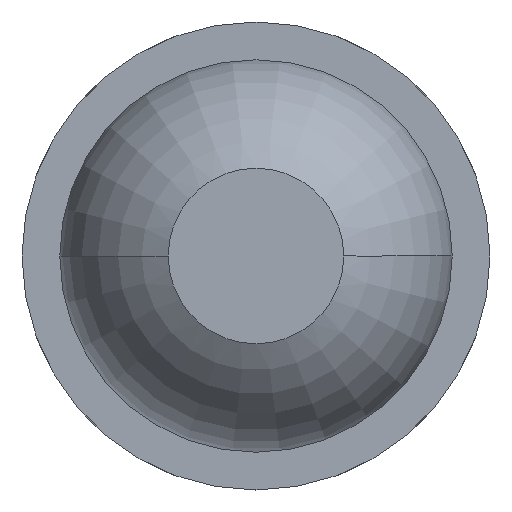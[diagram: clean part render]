
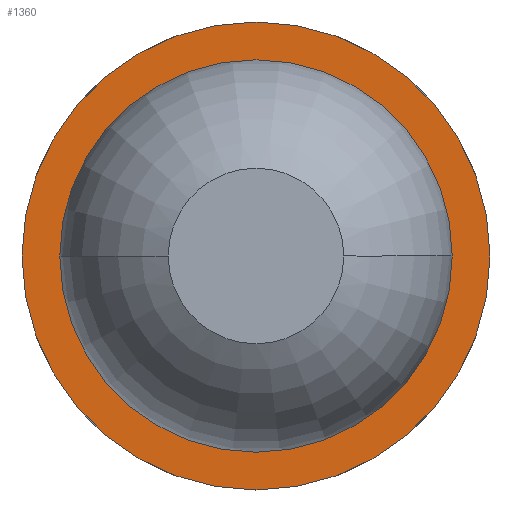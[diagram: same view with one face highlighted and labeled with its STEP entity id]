
A CAD part, left-side view. The second image highlights one B-rep face of the part: STEP entity #1360.
In plain terms, the highlighted planar face has unit normal (-1, 0, 0).
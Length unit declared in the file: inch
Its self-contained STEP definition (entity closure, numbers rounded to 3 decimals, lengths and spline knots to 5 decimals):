
#17 = CARTESIAN_POINT ( 'NONE',  ( 1.23, 0., 0. ) ) ;
#58 = ORIENTED_EDGE ( 'NONE', *, *, #1231, .F. ) ;
#79 = VERTEX_POINT ( 'NONE', #1186 ) ;
#85 = CIRCLE ( 'NONE', #359, 0.0123 ) ;
#101 = CARTESIAN_POINT ( 'NONE',  ( 1.23, 0., 0. ) ) ;
#115 = EDGE_LOOP ( 'NONE', ( #151, #922 ) ) ;
#151 = ORIENTED_EDGE ( 'NONE', *, *, #782, .T. ) ;
#180 = DIRECTION ( 'NONE',  ( 1., 0., 0. ) ) ;
#197 = DIRECTION ( 'NONE',  ( 0., 0., -1. ) ) ;
#301 = DIRECTION ( 'NONE',  ( 1., 0., 0. ) ) ;
#344 = FACE_BOUND ( 'NONE', #115, .T. ) ;
#348 = DIRECTION ( 'NONE',  ( 1., 0., 0. ) ) ;
#359 = AXIS2_PLACEMENT_3D ( 'NONE', #752, #1216, #197 ) ;
#449 = CARTESIAN_POINT ( 'NONE',  ( 1.23, 0., 0.0123 ) ) ;
#461 = VERTEX_POINT ( 'NONE', #449 ) ;
#503 = CIRCLE ( 'NONE', #1224, 0.024 ) ;
#539 = VERTEX_POINT ( 'NONE', #926 ) ;
#622 = DIRECTION ( 'NONE',  ( 0., 0., -1. ) ) ;
#661 = FACE_OUTER_BOUND ( 'NONE', #1183, .T. ) ;
#690 = AXIS2_PLACEMENT_3D ( 'NONE', #17, #348, #800 ) ;
#722 = DIRECTION ( 'NONE',  ( 0., 0., -1. ) ) ;
#725 = VERTEX_POINT ( 'NONE', #1451 ) ;
#752 = CARTESIAN_POINT ( 'NONE',  ( 1.23, 0., 0. ) ) ;
#782 = EDGE_CURVE ( 'NONE', #461, #539, #85, .T. ) ;
#789 = CIRCLE ( 'NONE', #690, 0.0123 ) ;
#800 = DIRECTION ( 'NONE',  ( 0., 0., -1. ) ) ;
#869 = CARTESIAN_POINT ( 'NONE',  ( 1.23, 0., 0. ) ) ;
#884 = AXIS2_PLACEMENT_3D ( 'NONE', #1194, #180, #622 ) ;
#898 = DIRECTION ( 'NONE',  ( 0., 0., -1. ) ) ;
#922 = ORIENTED_EDGE ( 'NONE', *, *, #937, .T. ) ;
#926 = CARTESIAN_POINT ( 'NONE',  ( 1.23, 0., -0.0123 ) ) ;
#937 = EDGE_CURVE ( 'NONE', #539, #461, #789, .T. ) ;
#996 = DIRECTION ( 'NONE',  ( 1., 0., 0. ) ) ;
#1108 = AXIS2_PLACEMENT_3D ( 'NONE', #101, #996, #898 ) ;
#1178 = EDGE_CURVE ( 'NONE', #725, #79, #503, .T. ) ;
#1183 = EDGE_LOOP ( 'NONE', ( #58, #1309 ) ) ;
#1186 = CARTESIAN_POINT ( 'NONE',  ( 1.23, 0., -0.024 ) ) ;
#1194 = CARTESIAN_POINT ( 'NONE',  ( 1.23, 0., 0. ) ) ;
#1216 = DIRECTION ( 'NONE',  ( 1., 0., 0. ) ) ;
#1224 = AXIS2_PLACEMENT_3D ( 'NONE', #869, #301, #722 ) ;
#1231 = EDGE_CURVE ( 'NONE', #79, #725, #1348, .T. ) ;
#1232 = PLANE ( 'NONE',  #1108 ) ;
#1309 = ORIENTED_EDGE ( 'NONE', *, *, #1178, .F. ) ;
#1348 = CIRCLE ( 'NONE', #884, 0.024 ) ;
#1360 = ADVANCED_FACE ( 'NONE', ( #344, #661 ), #1232, .F. ) ;
#1451 = CARTESIAN_POINT ( 'NONE',  ( 1.23, 0., 0.024 ) ) ;
